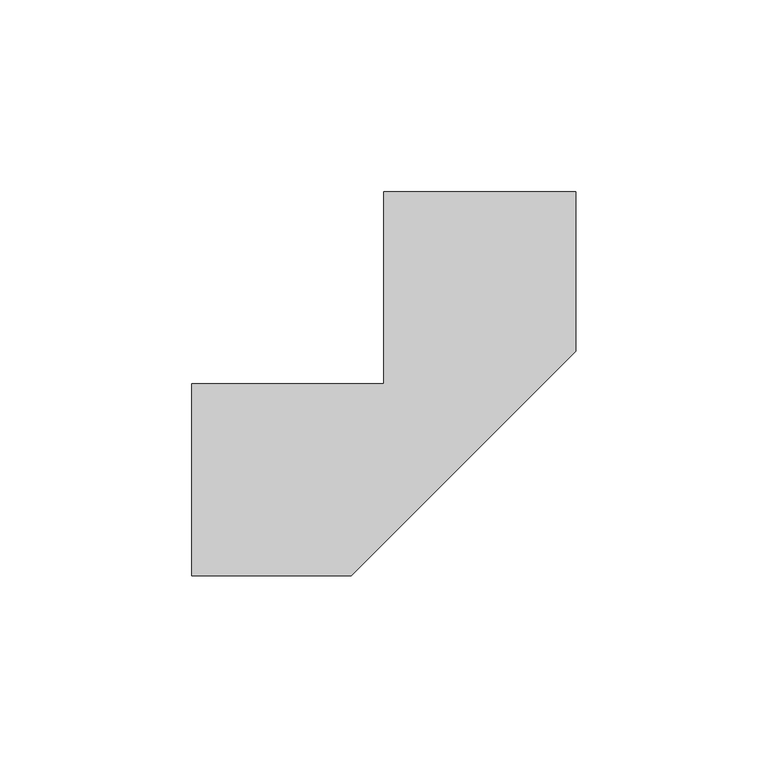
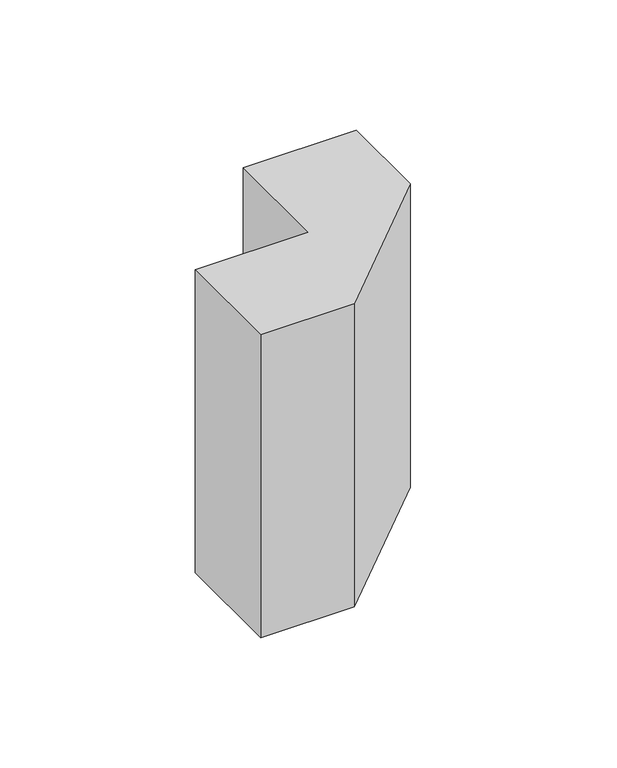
"""IFC4 building model written with IfcOpenShell, lengths in millimetres: duct fitting geometry, КНС_УголВнешний_DKC : Угол внешний."""

from ifc_helpers import new_model, si_unit, frame, origin, place, context, project, spatial, polyline, outline, extrude, source, transform, mapped, element, save


def duct_fitting_3937ce95(model_context):
    return source(origin(), model_context, "Body", "SweptSolid", [
        extrude(outline(polyline([(-75.0, -25.0), (-75.0, 25.0), (-25.0, 25.0), (-25.0, 75.0), (25.0, 75.0), (25.0, 33.5786438), (-33.5786438, -25.0), (-75.0, -25.0)])), frame((0.0, 0.0, -71.0), z_axis=(0.0, 0.0, 1.0), x_axis=(1.0, 0.0, 0.0)), (0.0, 0.0, 1.0), 142.0),
    ])


if __name__ == "__main__":
    model = new_model("IFC4")
    model_context = context("Model", 3, world=origin())
    ifc_project = project(units=[si_unit("LENGTHUNIT", "METRE", prefix="MILLI")], contexts=[model_context])
    site = spatial("IfcSite", under=ifc_project)
    building = spatial("IfcBuilding", under=site)
    placement = place(None, origin())
    duct_fitting_shape = duct_fitting_3937ce95(model_context)
    element("IfcDuctFitting", 1, ObjectType="КНС_УголВнешний_DKC : Угол внешний", at=placement, inside=building, context=model_context, shape_type="MappedRepresentation", body=[
        mapped(duct_fitting_shape, transform((0.0, 0.0, 0.0), x_axis=(1.0, 0.0, 0.0), y_axis=(0.0, 1.0, 0.0), z_axis=(0.0, 0.0, 1.0))),
    ])
    save(model, "model.ifc")
